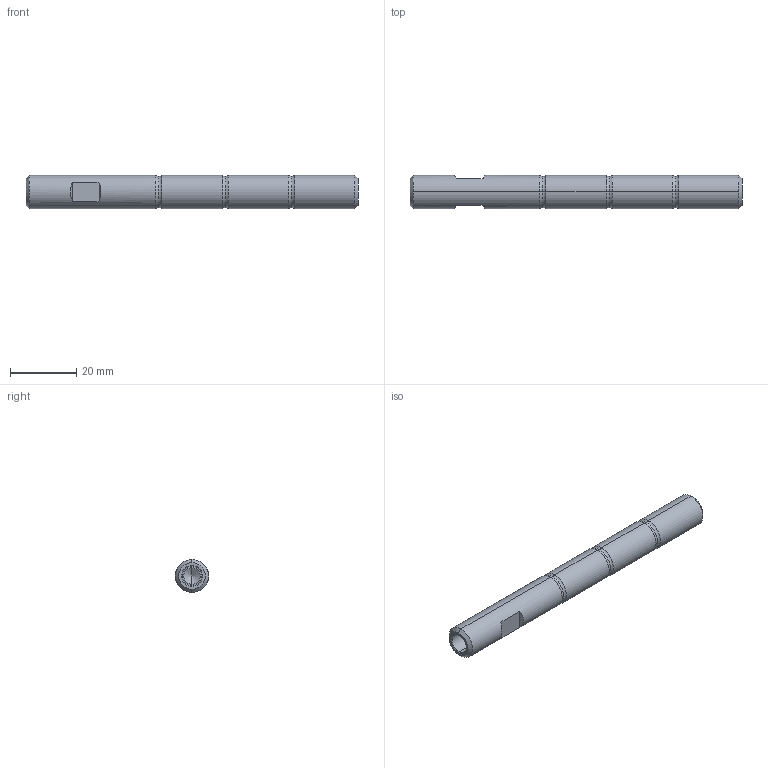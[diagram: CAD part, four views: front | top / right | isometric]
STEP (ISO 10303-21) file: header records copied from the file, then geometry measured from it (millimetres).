
FILE_DESCRIPTION (( 'STEP AP214' ), '1' );
FILE_NAME ('F1050_0610100.STEP', '2024-08-02T10:39:01', ( '' ), ( '' ), 'SwSTEP 2.0', 'SolidWorks 2014', '' );
FILE_SCHEMA (( 'AUTOMOTIVE_DESIGN' ));
Length unit declared in the file: millimetre
Products named in the file (1): F1050_0610100
Bounding box: 100 x 10 x 10 mm (x, y, z)
Volume: 6848.2 mm3; surface area: 3853 mm2
Topology: 1 solids, 1 shells, 50 faces, 102 edges, 56 vertices
Faces by surface type: cylinder 16, torus 12, cone 12, plane 10
Entity records: 1310 total; most frequent: DIRECTION 254, CARTESIAN_POINT 217, ORIENTED_EDGE 196, AXIS2_PLACEMENT_3D 109, EDGE_CURVE 98, CIRCLE 58, VERTEX_POINT 56, EDGE_LOOP 56
